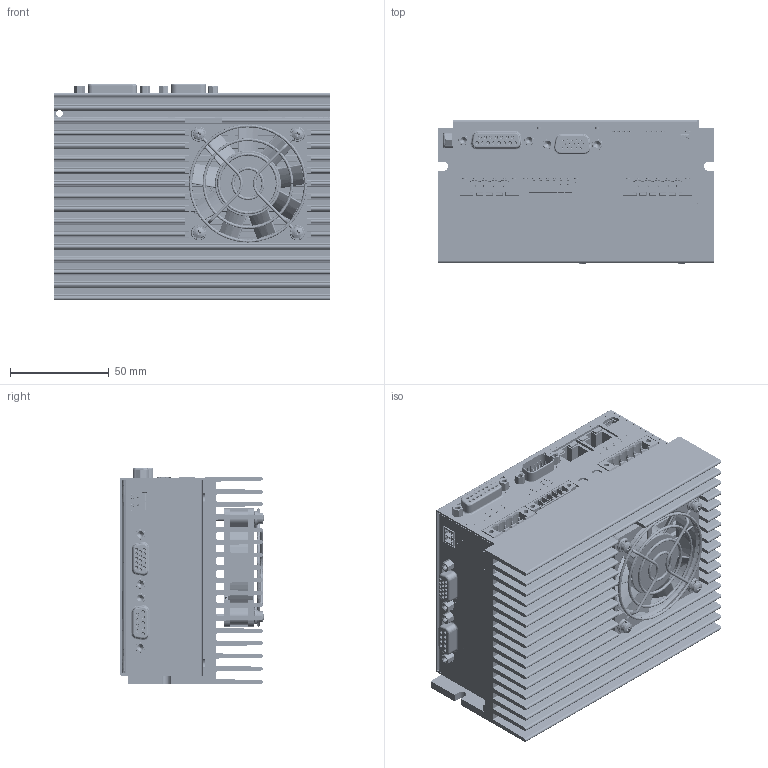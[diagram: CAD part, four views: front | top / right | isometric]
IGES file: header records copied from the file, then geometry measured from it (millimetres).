
Start section: SolidWorks IGES file using analytic representation for surfaces
Global section: file name: P:\Products\SimpllQ2\Hardware\G-BASSOON - Advanced\ENG\SOLID\STEP files for John\GOLD BASOON_heatsink+FAN\GOLD BASOON_heatsink.IGS; native system: SolidWorks 2013; preprocessor: SolidWorks 2013; author: mariand; date: 140608.141212; units: millimetre
Bounding box: 140 x 73.02 x 109.4 mm (x, y, z)
Surface area: 232225.7 mm2 (no closed solid volume)
Topology: 0 solids, 0 shells, 8421 faces, 74139 edges, 74053 vertices
Faces by surface type: bspline 6650, revolution 1771
